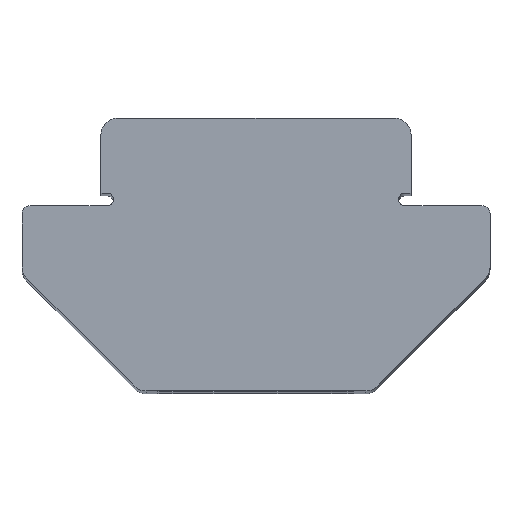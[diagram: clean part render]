
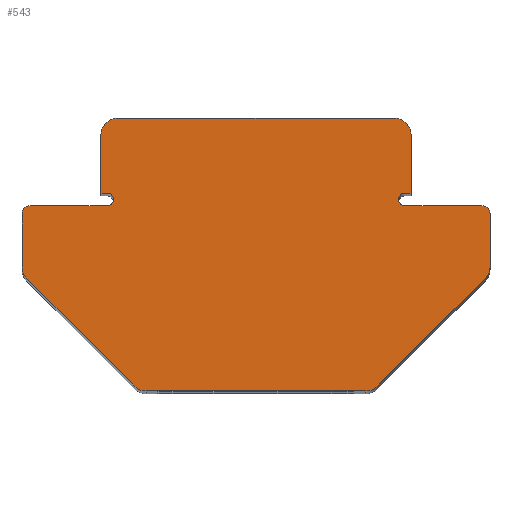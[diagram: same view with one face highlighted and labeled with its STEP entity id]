
A CAD part, top view. The second image highlights one B-rep face of the part: STEP entity #543.
In plain terms, the highlighted planar face has unit normal (0, 0, 1).
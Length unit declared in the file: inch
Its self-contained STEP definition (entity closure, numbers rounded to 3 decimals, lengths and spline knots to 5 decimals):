
#1=CARTESIAN_POINT('',(-0.179,0.0075,2.));
#2=DIRECTION('',(0.,0.,-1.));
#3=DIRECTION('',(0.,1.,0.));
#4=AXIS2_PLACEMENT_3D('',#1,#2,#3);
#6=CARTESIAN_POINT('',(-0.1665,0.085,2.));
#7=DIRECTION('',(0.,0.,1.));
#8=DIRECTION('',(0.,1.,0.));
#9=AXIS2_PLACEMENT_3D('',#6,#7,#8);
#11=DIRECTION('',(-1.,0.,0.));
#12=VECTOR('',#11,0.333);
#13=CARTESIAN_POINT('',(0.1665,0.105,2.));
#14=LINE('',#13,#12);
#15=CARTESIAN_POINT('',(0.1665,0.085,2.));
#16=DIRECTION('',(0.,0.,1.));
#17=DIRECTION('',(1.,0.,0.));
#18=AXIS2_PLACEMENT_3D('',#15,#16,#17);
#20=CARTESIAN_POINT('',(0.179,0.0075,2.));
#21=DIRECTION('',(0.,0.,-1.));
#22=DIRECTION('',(-1.,0.,0.));
#23=AXIS2_PLACEMENT_3D('',#20,#21,#22);
#25=CARTESIAN_POINT('',(0.179,0.0075,2.));
#26=DIRECTION('',(0.,0.,-1.));
#27=DIRECTION('',(0.,-1.,0.));
#28=AXIS2_PLACEMENT_3D('',#25,#26,#27);
#30=CARTESIAN_POINT('',(0.2715,-0.01,2.));
#31=DIRECTION('',(0.,0.,1.));
#32=DIRECTION('',(1.,0.,0.));
#33=AXIS2_PLACEMENT_3D('',#30,#31,#32);
#35=DIRECTION('',(0.,1.,0.));
#36=VECTOR('',#35,0.06372);
#37=CARTESIAN_POINT('',(0.2815,-0.07372,2.));
#38=LINE('',#37,#36);
#39=CARTESIAN_POINT('',(0.2615,-0.07372,2.));
#40=DIRECTION('',(0.,0.,1.));
#41=DIRECTION('',(0.707,-0.707,0.));
#42=AXIS2_PLACEMENT_3D('',#39,#40,#41);
#44=DIRECTION('',(0.707,0.707,0.));
#45=VECTOR('',#44,0.18284);
#46=CARTESIAN_POINT('',(0.14636,-0.21714,2.));
#47=LINE('',#46,#45);
#48=CARTESIAN_POINT('',(0.13222,-0.203,2.));
#49=DIRECTION('',(0.,0.,1.));
#50=DIRECTION('',(0.,-1.,0.));
#51=AXIS2_PLACEMENT_3D('',#48,#49,#50);
#53=CARTESIAN_POINT('',(-0.13222,-0.203,2.));
#54=DIRECTION('',(0.,0.,1.));
#55=DIRECTION('',(-0.707,-0.707,0.));
#56=AXIS2_PLACEMENT_3D('',#53,#54,#55);
#58=DIRECTION('',(0.707,-0.707,0.));
#59=VECTOR('',#58,0.18284);
#60=CARTESIAN_POINT('',(-0.27564,-0.08786,2.));
#61=LINE('',#60,#59);
#62=CARTESIAN_POINT('',(-0.2615,-0.07372,2.));
#63=DIRECTION('',(0.,0.,1.));
#64=DIRECTION('',(-1.,0.,0.));
#65=AXIS2_PLACEMENT_3D('',#62,#63,#64);
#67=DIRECTION('',(0.,-1.,0.));
#68=VECTOR('',#67,0.06372);
#69=CARTESIAN_POINT('',(-0.2815,-0.01,2.));
#70=LINE('',#69,#68);
#71=CARTESIAN_POINT('',(-0.2715,-0.01,2.));
#72=DIRECTION('',(0.,0.,1.));
#73=DIRECTION('',(0.,1.,0.));
#74=AXIS2_PLACEMENT_3D('',#71,#72,#73);
#76=CARTESIAN_POINT('',(-0.179,0.0075,2.));
#77=DIRECTION('',(0.,0.,-1.));
#78=DIRECTION('',(1.,0.,0.));
#79=AXIS2_PLACEMENT_3D('',#76,#77,#78);
#89=DIRECTION('',(1.,0.,0.));
#90=VECTOR('',#89,0.0925);
#91=CARTESIAN_POINT('',(-0.2715,0.,2.));
#92=LINE('',#91,#90);
#237=DIRECTION('',(0.,-1.,0.));
#238=VECTOR('',#237,0.07);
#239=CARTESIAN_POINT('',(0.1865,0.085,2.));
#240=LINE('',#239,#238);
#249=DIRECTION('',(-1.,0.,0.));
#250=VECTOR('',#249,0.0075);
#251=CARTESIAN_POINT('',(0.1865,0.015,2.));
#252=LINE('',#251,#250);
#261=DIRECTION('',(1.,0.,0.));
#262=VECTOR('',#261,0.0925);
#263=CARTESIAN_POINT('',(0.179,0.,2.));
#264=LINE('',#263,#262);
#285=DIRECTION('',(-1.,0.,0.));
#286=VECTOR('',#285,0.26443);
#287=CARTESIAN_POINT('',(0.13222,-0.223,2.));
#288=LINE('',#287,#286);
#345=DIRECTION('',(0.,1.,0.));
#346=VECTOR('',#345,0.07);
#347=CARTESIAN_POINT('',(-0.1865,0.015,2.));
#348=LINE('',#347,#346);
#353=DIRECTION('',(-1.,0.,0.));
#354=VECTOR('',#353,0.0075);
#355=CARTESIAN_POINT('',(-0.179,0.015,2.));
#356=LINE('',#355,#354);
#369=CARTESIAN_POINT('',(-0.2815,-0.07372,2.));
#370=CARTESIAN_POINT('',(-0.27564,-0.08786,2.));
#371=VERTEX_POINT('',#369);
#372=VERTEX_POINT('',#370);
#374=CARTESIAN_POINT('',(0.2815,-0.07372,2.));
#376=VERTEX_POINT('',#374);
#378=CARTESIAN_POINT('',(0.1665,0.105,2.));
#380=VERTEX_POINT('',#378);
#385=CARTESIAN_POINT('',(-0.2715,0.,2.));
#386=CARTESIAN_POINT('',(-0.2815,-0.01,2.));
#387=VERTEX_POINT('',#385);
#388=VERTEX_POINT('',#386);
#397=CARTESIAN_POINT('',(-0.1665,0.105,2.));
#398=CARTESIAN_POINT('',(-0.1865,0.085,2.));
#399=VERTEX_POINT('',#397);
#400=VERTEX_POINT('',#398);
#409=CARTESIAN_POINT('',(0.1865,0.085,2.));
#411=VERTEX_POINT('',#409);
#415=CARTESIAN_POINT('',(0.13222,-0.223,2.));
#416=CARTESIAN_POINT('',(-0.13222,-0.223,2.));
#417=VERTEX_POINT('',#415);
#418=VERTEX_POINT('',#416);
#419=CARTESIAN_POINT('',(0.2815,-0.01,2.));
#420=VERTEX_POINT('',#419);
#422=CARTESIAN_POINT('',(0.2715,0.,2.));
#424=VERTEX_POINT('',#422);
#429=CARTESIAN_POINT('',(-0.179,0.015,2.));
#430=VERTEX_POINT('',#429);
#432=CARTESIAN_POINT('',(0.14636,-0.21714,2.));
#434=VERTEX_POINT('',#432);
#435=CARTESIAN_POINT('',(0.1865,0.015,2.));
#436=CARTESIAN_POINT('',(0.179,0.015,2.));
#437=VERTEX_POINT('',#435);
#438=VERTEX_POINT('',#436);
#439=CARTESIAN_POINT('',(0.179,0.,2.));
#441=VERTEX_POINT('',#439);
#443=CARTESIAN_POINT('',(0.27564,-0.08786,2.));
#444=VERTEX_POINT('',#443);
#448=CARTESIAN_POINT('',(-0.179,0.,2.));
#450=VERTEX_POINT('',#448);
#451=CARTESIAN_POINT('',(-0.14636,-0.21714,2.));
#452=VERTEX_POINT('',#451);
#461=CARTESIAN_POINT('',(-0.1865,0.015,2.));
#462=VERTEX_POINT('',#461);
#463=CARTESIAN_POINT('',(-0.1715,0.0075,2.));
#464=VERTEX_POINT('',#463);
#469=CARTESIAN_POINT('',(0.1715,0.0075,2.));
#470=VERTEX_POINT('',#469);
#489=CARTESIAN_POINT('',(0.,0.,2.));
#490=DIRECTION('',(0.,0.,1.));
#491=DIRECTION('',(1.,0.,0.));
#492=AXIS2_PLACEMENT_3D('',#489,#490,#491);
#493=PLANE('',#492);
#495=ORIENTED_EDGE('',*,*,#494,.F.);
#497=ORIENTED_EDGE('',*,*,#496,.T.);
#499=ORIENTED_EDGE('',*,*,#498,.T.);
#501=ORIENTED_EDGE('',*,*,#500,.F.);
#503=ORIENTED_EDGE('',*,*,#502,.F.);
#505=ORIENTED_EDGE('',*,*,#504,.F.);
#507=ORIENTED_EDGE('',*,*,#506,.T.);
#509=ORIENTED_EDGE('',*,*,#508,.T.);
#511=ORIENTED_EDGE('',*,*,#510,.F.);
#513=ORIENTED_EDGE('',*,*,#512,.F.);
#515=ORIENTED_EDGE('',*,*,#514,.T.);
#517=ORIENTED_EDGE('',*,*,#516,.F.);
#519=ORIENTED_EDGE('',*,*,#518,.F.);
#521=ORIENTED_EDGE('',*,*,#520,.F.);
#522=ORIENTED_EDGE('',*,*,#478,.F.);
#524=ORIENTED_EDGE('',*,*,#523,.F.);
#526=ORIENTED_EDGE('',*,*,#525,.T.);
#528=ORIENTED_EDGE('',*,*,#527,.F.);
#530=ORIENTED_EDGE('',*,*,#529,.F.);
#532=ORIENTED_EDGE('',*,*,#531,.F.);
#534=ORIENTED_EDGE('',*,*,#533,.F.);
#536=ORIENTED_EDGE('',*,*,#535,.F.);
#538=ORIENTED_EDGE('',*,*,#537,.T.);
#540=ORIENTED_EDGE('',*,*,#539,.F.);
#541=EDGE_LOOP('',(#495,#497,#499,#501,#503,#505,#507,#509,#511,#513,#515,#517,
#519,#521,#522,#524,#526,#528,#530,#532,#534,#536,#538,#540));
#542=FACE_OUTER_BOUND('',#541,.F.);
#5=CIRCLE('',#4,0.0075);
#10=CIRCLE('',#9,0.02);
#19=CIRCLE('',#18,0.02);
#24=CIRCLE('',#23,0.0075);
#29=CIRCLE('',#28,0.0075);
#34=CIRCLE('',#33,0.01);
#43=CIRCLE('',#42,0.02);
#52=CIRCLE('',#51,0.02);
#57=CIRCLE('',#56,0.02);
#66=CIRCLE('',#65,0.02);
#75=CIRCLE('',#74,0.01);
#80=CIRCLE('',#79,0.0075);
#478=EDGE_CURVE('',#434,#444,#47,.T.);
#494=EDGE_CURVE('',#430,#464,#5,.T.);
#496=EDGE_CURVE('',#430,#462,#356,.T.);
#498=EDGE_CURVE('',#462,#400,#348,.T.);
#500=EDGE_CURVE('',#399,#400,#10,.T.);
#502=EDGE_CURVE('',#380,#399,#14,.T.);
#504=EDGE_CURVE('',#411,#380,#19,.T.);
#506=EDGE_CURVE('',#411,#437,#240,.T.);
#508=EDGE_CURVE('',#437,#438,#252,.T.);
#510=EDGE_CURVE('',#470,#438,#24,.T.);
#512=EDGE_CURVE('',#441,#470,#29,.T.);
#514=EDGE_CURVE('',#441,#424,#264,.T.);
#516=EDGE_CURVE('',#420,#424,#34,.T.);
#518=EDGE_CURVE('',#376,#420,#38,.T.);
#520=EDGE_CURVE('',#444,#376,#43,.T.);
#523=EDGE_CURVE('',#417,#434,#52,.T.);
#525=EDGE_CURVE('',#417,#418,#288,.T.);
#527=EDGE_CURVE('',#452,#418,#57,.T.);
#529=EDGE_CURVE('',#372,#452,#61,.T.);
#531=EDGE_CURVE('',#371,#372,#66,.T.);
#533=EDGE_CURVE('',#388,#371,#70,.T.);
#535=EDGE_CURVE('',#387,#388,#75,.T.);
#537=EDGE_CURVE('',#387,#450,#92,.T.);
#539=EDGE_CURVE('',#464,#450,#80,.T.);
#543=ADVANCED_FACE('',(#542),#493,.T.);
